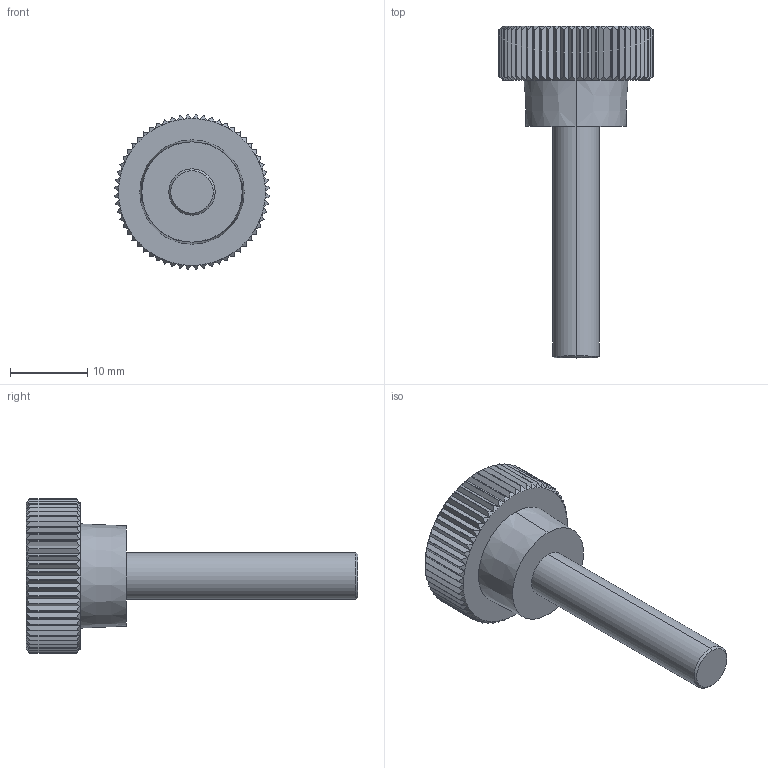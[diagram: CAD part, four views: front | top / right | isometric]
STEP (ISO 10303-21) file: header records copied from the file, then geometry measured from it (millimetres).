
FILE_DESCRIPTION (( 'STEP AP203' ), '1' );
FILE_NAME ('wn4662_20-m6x30.step', '2024-05-28T06:22:45', ( '' ), ( '' ), 'SwSTEP 2.0', 'SolidWorks 2023', '' );
FILE_SCHEMA (( 'CONFIG_CONTROL_DESIGN' ));
Length unit declared in the file: millimetre
Products named in the file (1): wn4662_20-m6x30
Bounding box: 19.98 x 43 x 19.98 mm (x, y, z)
Volume: 3699.1 mm3; surface area: 2288.3 mm2
Topology: 3 solids, 3 shells, 321 faces, 694 edges, 382 vertices
Faces by surface type: plane 129, cone 126, cylinder 66
Entity records: 8787 total; most frequent: CARTESIAN_POINT 2118, ORIENTED_EDGE 1388, DIRECTION 1360, EDGE_CURVE 694, AXIS2_PLACEMENT_3D 584, VERTEX_POINT 382, EDGE_LOOP 324, FACE_OUTER_BOUND 321
